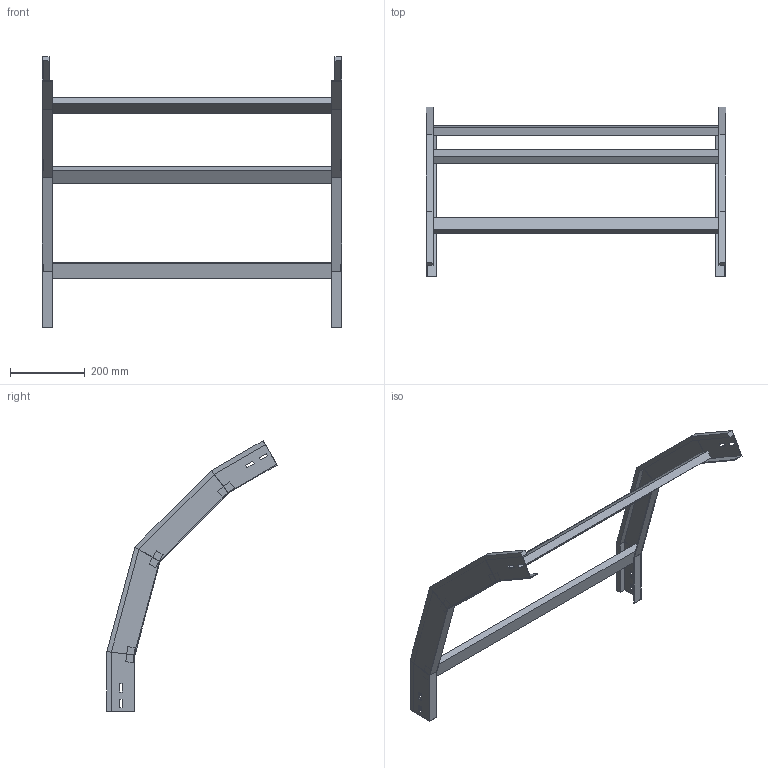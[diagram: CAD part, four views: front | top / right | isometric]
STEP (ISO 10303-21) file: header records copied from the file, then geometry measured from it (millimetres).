
FILE_DESCRIPTION (( 'STEP AP214' ), '1' );
FILE_NAME ('41B5C800.step', '2025-02-21T14:59:42', ( '' ), ( '' ), 'SwSTEP 2.0', 'SolidWorks 2023', '' );
FILE_SCHEMA (( 'AUTOMOTIVE_DESIGN' ));
Length unit declared in the file: millimetre
Products named in the file (3): LONGH.DISCESA_60°_H75_R500; TRAVERSINO_800; 41B5C800
Assembly tree (5 placements, depth 2):
  41B5C800
    LONGH.DISCESA_60°_H75_R500  x2
    TRAVERSINO_800  x3
Bounding box: 800 x 455.08 x 723.27 mm (x, y, z)
Volume: 2613339.7 mm3; surface area: 697006.3 mm2
Topology: 5 solids, 5 shells, 118 faces, 276 edges, 168 vertices
Faces by surface type: plane 118
Entity records: 1672 total; most frequent: CARTESIAN_POINT 276, ORIENTED_EDGE 264, DIRECTION 260, LINE 132, VECTOR 132, EDGE_CURVE 132, VERTEX_POINT 80, EDGE_LOOP 64
